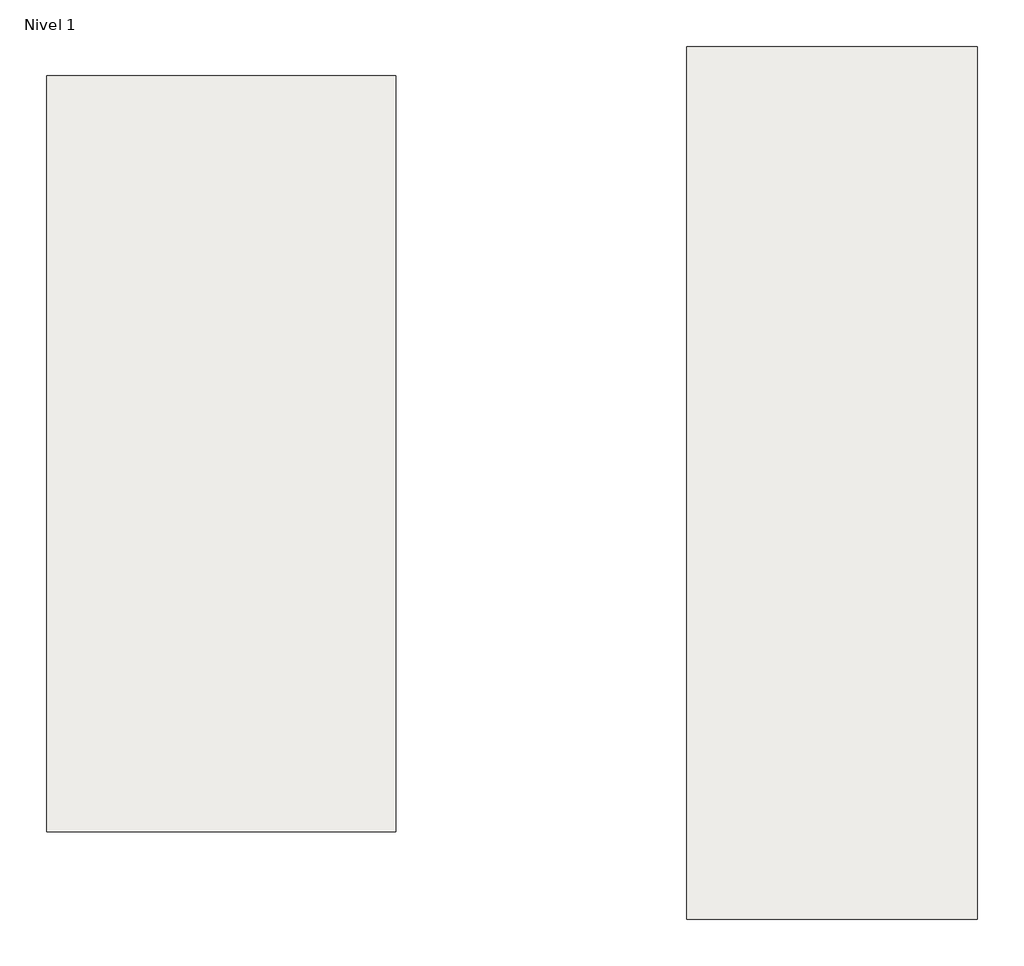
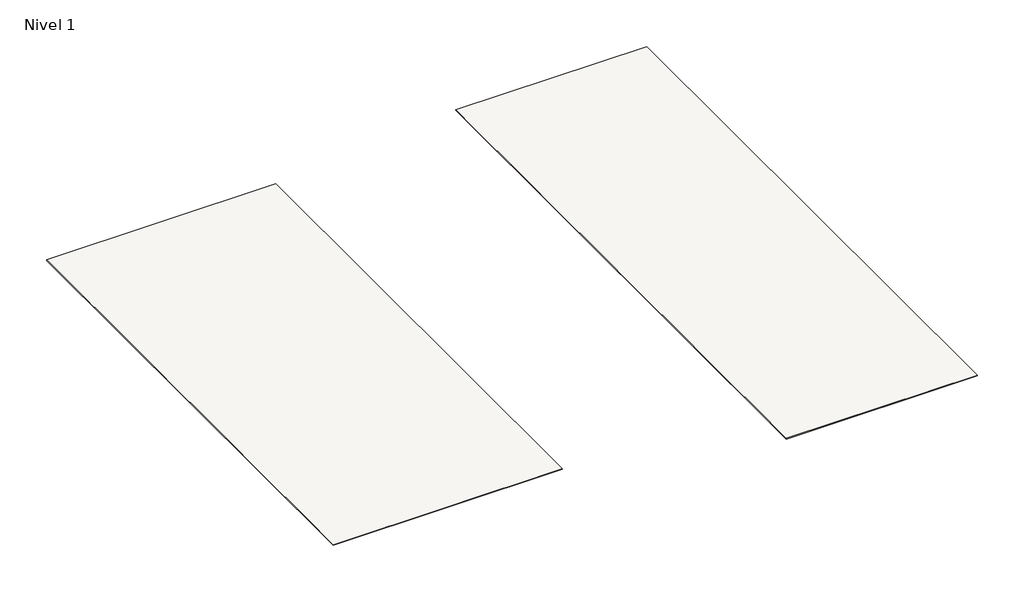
# One storey: 2 slabs.
"""IFC4 building model written with IfcOpenShell, lengths in millimetres."""

from ifc_helpers import new_model, si_unit, frame, origin, place, context, project, spatial, polyline, outline, extrude, element, save

model = new_model("IFC4")

# Units and contexts
model_context = context("Model", 3, world=origin())
ifc_project = project(units=[si_unit("LENGTHUNIT", "METRE", prefix="MILLI")], contexts=[model_context])

# Site, building, storey
site = spatial("IfcSite", under=ifc_project)
building = spatial("IfcBuilding", under=site)
storey = spatial("IfcBuildingStorey", under=building, Name="Nivel 1", Elevation=0.0)

# Slabs
placement = place(None, origin())
element("IfcSlab", 1, ObjectType="Coralina Blanco 100X300 3,5", at=placement, inside=storey, context=model_context, shape_type="SweptSolid", body=[
    extrude(outline(polyline([(12000.0, 3000.0), (13000.0, 3000.0), (13000.0, 0.0), (12000.0, 0.0), (12000.0, 3000.0)])), frame((0.0, 0.0, -3.5), z_axis=(0.0, 0.0, 1.0), x_axis=(1.0, 0.0, 0.0)), (0.0, 0.0, 1.0), 3.5),
])
element("IfcSlab", 2, ObjectType="Coralina Blanco 120X260 3,5", at=placement, inside=storey, context=model_context, shape_type="SweptSolid", body=[
    extrude(outline(polyline([(9800.0, 2900.0), (11000.0, 2900.0), (11000.0, 300.0), (9800.0, 300.0), (9800.0, 2900.0)])), frame((0.0, 0.0, -3.5), z_axis=(0.0, 0.0, 1.0), x_axis=(1.0, 0.0, 0.0)), (0.0, 0.0, 1.0), 3.5),
])

save(model, "model.ifc")
